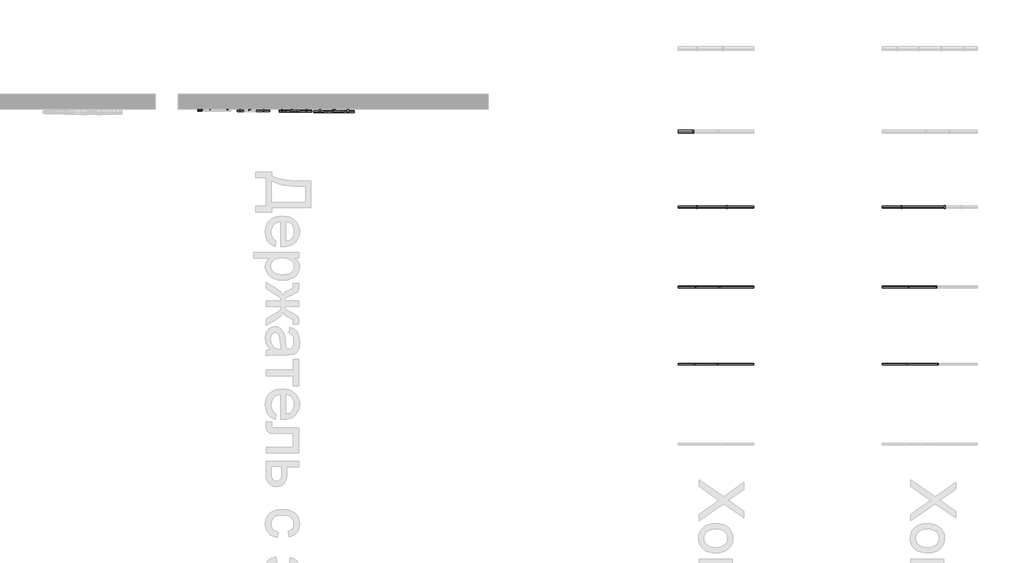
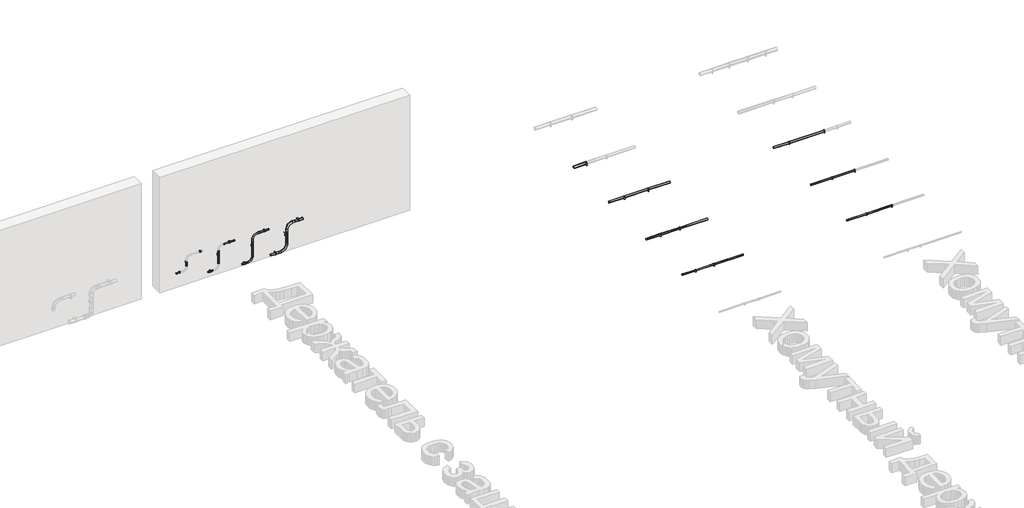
# One storey, part 7 of 33: 36 cable carrier segments, 29 cable carrier fittings.
"""IFC4 building model written with IfcOpenShell, lengths in millimetres."""

from ifc_helpers import new_model, si_unit, point, frame, frame_2d, origin, place, context, project, spatial, circle_curve, trimmed, segment, composite_curve, outline, extrude, transform, mapped, element, save
from components import cable_carrier_fitting_ea881ea5, cable_carrier_fitting_7ab8a709, cable_carrier_fitting_8feb8c2b, cable_carrier_fitting_05e0a0bb, cable_carrier_fitting_1851c7ee, cable_carrier_fitting_1b7fa4f3, cable_carrier_fitting_ed63e5e5, cable_carrier_fitting_f47d66c9, cable_carrier_fitting_9ad766fa, cable_carrier_fitting_1cabe774, cable_carrier_fitting_ebcfe72a, cable_carrier_fitting_60fb8931, cable_carrier_fitting_309cf5c9

model = new_model("IFC4")

# Units and contexts
model_context = context("Model", 3, world=origin())
ifc_project = project(units=[si_unit("LENGTHUNIT", "METRE", prefix="MILLI")], contexts=[model_context])

# Site, building, storey
site = spatial("IfcSite", under=ifc_project)
building = spatial("IfcBuilding", under=site)
storey = spatial("IfcBuildingStorey", under=building, Name="Уровень 1", Elevation=0.0)

# Cable carrier fittings
placement = place(None, origin())
cable_carrier_fitting_shape = cable_carrier_fitting_ea881ea5(model_context)
element("IfcCableCarrierFitting", 1, ObjectType="Держатель с защелкой и дюбелем CT : CTA10D-CT16-K41-100", at=placement, inside=storey, context=model_context, shape_type="MappedRepresentation", body=[
    mapped(cable_carrier_fitting_shape, transform((54483.6539102, 4388.4818447, 500.0), x_axis=(1.0, 0.0, 0.0), y_axis=(0.0, 0.0, 1.0000000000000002), z_axis=(0.0, -1.0000000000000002, 0.0))),
])
element("IfcCableCarrierFitting", 2, ObjectType="Держатель с защелкой и дюбелем CT : CTA10D-CT16-K41-100", at=placement, inside=storey, context=model_context, shape_type="MappedRepresentation", body=[
    mapped(cable_carrier_fitting_shape, transform((54257.669946, 4388.4818447, 384.5986089), x_axis=(0.0, 0.0, 1.0), y_axis=(-1.0000000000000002, 0.0, 0.0), z_axis=(0.0, -1.0000000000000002, 0.0))),
])
element("IfcCableCarrierFitting", 3, ObjectType="Держатель с защелкой и дюбелем CT : CTA10D-CT16-K41-100", at=placement, inside=storey, context=model_context, shape_type="MappedRepresentation", body=[
    mapped(cable_carrier_fitting_shape, transform((54147.6199827, 4388.4818447, 256.0339275), x_axis=(1.0, 0.0, 0.0), y_axis=(0.0, 0.0, 1.0000000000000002), z_axis=(0.0, -1.0000000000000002, 0.0))),
])
cable_carrier_fitting_2_shape = cable_carrier_fitting_7ab8a709(model_context)
element("IfcCableCarrierFitting", 4, ObjectType="Держатель с защелкой и дюбелем CT : CTA10D-CT20-K41-100", at=placement, inside=storey, context=model_context, shape_type="MappedRepresentation", body=[
    mapped(cable_carrier_fitting_2_shape, transform((54646.9295806, 4383.4818447, 101.7243296), x_axis=(1.0, 0.0, 0.0), y_axis=(0.0, 0.0, 1.0000000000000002), z_axis=(0.0, -1.0000000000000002, 0.0))),
])
element("IfcCableCarrierFitting", 5, ObjectType="Держатель с защелкой и дюбелем CT : CTA10D-CT20-K41-100", at=placement, inside=storey, context=model_context, shape_type="MappedRepresentation", body=[
    mapped(cable_carrier_fitting_2_shape, transform((54777.669946, 4383.4818447, 334.951753), x_axis=(0.0, 0.0, 1.0), y_axis=(-1.0000000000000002, 0.0, 0.0), z_axis=(0.0, -1.0000000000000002, 0.0))),
])
element("IfcCableCarrierFitting", 6, ObjectType="Держатель с защелкой и дюбелем CT : CTA10D-CT20-K41-100", at=placement, inside=storey, context=model_context, shape_type="MappedRepresentation", body=[
    mapped(cable_carrier_fitting_2_shape, transform((54958.6539102, 4383.4818447, 500.0), x_axis=(1.0, 0.0, 0.0), y_axis=(0.0, 0.0, 1.0000000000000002), z_axis=(0.0, -1.0000000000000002, 0.0))),
])
cable_carrier_fitting_3_shape = cable_carrier_fitting_8feb8c2b(model_context)
element("IfcCableCarrierFitting", 7, ObjectType="Держатель с защелкой и дюбелем CT : CTA10D-CT25-K41-100", at=placement, inside=storey, context=model_context, shape_type="MappedRepresentation", body=[
    mapped(cable_carrier_fitting_3_shape, transform((55528.6539102, 4378.4818447, 500.0), x_axis=(1.0, 0.0, 0.0), y_axis=(0.0, 0.0, 1.0000000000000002), z_axis=(0.0, -1.0000000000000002, 0.0))),
])
element("IfcCableCarrierFitting", 8, ObjectType="Держатель с защелкой и дюбелем CT : CTA10D-CT25-K41-100", at=placement, inside=storey, context=model_context, shape_type="MappedRepresentation", body=[
    mapped(cable_carrier_fitting_3_shape, transform((55334.2430534, 4378.4818447, 296.717557), x_axis=(0.0, 0.0, 1.0), y_axis=(-1.0000000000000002, 0.0, 0.0), z_axis=(0.0, -1.0000000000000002, 0.0))),
])
element("IfcCableCarrierFitting", 9, ObjectType="Держатель с защелкой и дюбелем CT : CTA10D-CT25-K41-100", at=placement, inside=storey, context=model_context, shape_type="MappedRepresentation", body=[
    mapped(cable_carrier_fitting_3_shape, transform((55202.7539102, 4378.4818447, 45.9), x_axis=(1.0, 0.0, 0.0), y_axis=(0.0, 0.0, 1.0000000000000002), z_axis=(0.0, -1.0000000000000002, 0.0))),
])
cable_carrier_fitting_4_shape = cable_carrier_fitting_05e0a0bb(model_context)
element("IfcCableCarrierFitting", 10, ObjectType="Держатель с защелкой и дюбелем CT : CTA10D-CT32-K41-050", at=placement, inside=storey, context=model_context, shape_type="MappedRepresentation", body=[
    mapped(cable_carrier_fitting_4_shape, transform((56078.6539102, 4371.4818447, 500.0), x_axis=(1.0, 0.0, 0.0), y_axis=(0.0, 0.0, 1.0000000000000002), z_axis=(0.0, -1.0000000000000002, 0.0))),
])
element("IfcCableCarrierFitting", 11, ObjectType="Держатель с защелкой и дюбелем CT : CTA10D-CT32-K41-050", at=placement, inside=storey, context=model_context, shape_type="MappedRepresentation", body=[
    mapped(cable_carrier_fitting_4_shape, transform((55890.8152632, 4371.4818447, 296.717557), x_axis=(0.0, 0.0, 1.0), y_axis=(-1.0000000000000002, 0.0, 0.0), z_axis=(0.0, -1.0000000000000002, 0.0))),
])
element("IfcCableCarrierFitting", 12, ObjectType="Держатель с защелкой и дюбелем CT : CTA10D-CT32-K41-050", at=placement, inside=storey, context=model_context, shape_type="MappedRepresentation", body=[
    mapped(cable_carrier_fitting_4_shape, transform((55707.7539102, 4371.4818447, 45.9), x_axis=(-1.0, 0.0, 0.0), y_axis=(0.0, 0.0, -1.0000000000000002), z_axis=(0.0, -1.0000000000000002, 0.0))),
])
cable_carrier_fitting_5_shape = cable_carrier_fitting_1851c7ee(model_context)
element("IfcCableCarrierFitting", 13, ObjectType="Хомутный держатель CFC : CTA10D-CFC20-K41-100", at=placement, inside=storey, context=model_context, shape_type="MappedRepresentation", body=[
    mapped(cable_carrier_fitting_5_shape, transform((60661.3320054, 1027.6255993, 45.929251), x_axis=(1.0, 0.0, 0.0), y_axis=(0.0, 1.0, 0.0), z_axis=(0.0, 0.0, 1.0))),
])
element("IfcCableCarrierFitting", 14, ObjectType="Хомутный держатель CFC : CTA10D-CFC20-K41-100", at=placement, inside=storey, context=model_context, shape_type="MappedRepresentation", body=[
    mapped(cable_carrier_fitting_5_shape, transform((60964.311129, 1027.6255993, 45.929251), x_axis=(1.0, 0.0, 0.0), y_axis=(0.0, 1.0, 0.0), z_axis=(0.0, 0.0, 1.0))),
])
cable_carrier_fitting_6_shape = cable_carrier_fitting_1b7fa4f3(model_context)
element("IfcCableCarrierFitting", 15, ObjectType="Хомутный держатель CFC : CTA10D-CFC25-K41-100", at=placement, inside=storey, context=model_context, shape_type="MappedRepresentation", body=[
    mapped(cable_carrier_fitting_6_shape, transform((60674.0769059, 2047.6255993, 45.929251), x_axis=(-1.0, 0.0, 0.0), y_axis=(0.0, -1.0, 0.0), z_axis=(0.0, 0.0, 1.0))),
])
element("IfcCableCarrierFitting", 16, ObjectType="Хомутный держатель CFC : CTA10D-CFC25-K41-100", at=placement, inside=storey, context=model_context, shape_type="MappedRepresentation", body=[
    mapped(cable_carrier_fitting_6_shape, transform((60987.0884508, 2047.6255993, 45.929251), x_axis=(-1.0, 0.0, 0.0), y_axis=(0.0, -1.0, 0.0), z_axis=(0.0, 0.0, 1.0))),
])
cable_carrier_fitting_7_shape = cable_carrier_fitting_ed63e5e5(model_context)
element("IfcCableCarrierFitting", 17, ObjectType="Хомутный держатель CFC : CTA10D-CFC32-K41-050", at=placement, inside=storey, context=model_context, shape_type="MappedRepresentation", body=[
    mapped(cable_carrier_fitting_7_shape, transform((60694.7180581, 3107.6255993, 45.929251), x_axis=(-1.0, 0.0, 0.0), y_axis=(0.0, -1.0, 0.0), z_axis=(0.0, 0.0, 1.0))),
])
element("IfcCableCarrierFitting", 18, ObjectType="Хомутный держатель CFC : CTA10D-CFC32-K41-050", at=placement, inside=storey, context=model_context, shape_type="MappedRepresentation", body=[
    mapped(cable_carrier_fitting_7_shape, transform((61085.9824892, 3107.6255993, 45.929251), x_axis=(-1.0, 0.0, 0.0), y_axis=(0.0, -1.0, 0.0), z_axis=(0.0, 0.0, 1.0))),
])
cable_carrier_fitting_8_shape = cable_carrier_fitting_f47d66c9(model_context)
element("IfcCableCarrierFitting", 19, ObjectType="Хомутный держатель CFC : CTA10D-CFC40-K41-050", at=placement, inside=storey, context=model_context, shape_type="MappedRepresentation", body=[
    mapped(cable_carrier_fitting_8_shape, transform((60645.3267891, 4107.6255993, 45.929251), x_axis=(-1.0, 0.0, 0.0), y_axis=(0.0, -1.0, 0.0), z_axis=(0.0, 0.0, 1.0))),
])
cable_carrier_fitting_9_shape = cable_carrier_fitting_9ad766fa(model_context)
element("IfcCableCarrierFitting", 20, ObjectType="Хомутный держатель со стяжкой CFF1 16-32 мм IEK : Хомутный держатель со стяжкой CFF1 16-32 мм IEK", at=placement, inside=storey, context=model_context, shape_type="MappedRepresentation", body=[
    mapped(cable_carrier_fitting_9_shape, transform((63399.5470042, 3107.6255993, 45.929251), x_axis=(-1.0, 0.0, 0.0), y_axis=(0.0, -1.0, 0.0), z_axis=(0.0, 0.0, 1.0))),
])
element("IfcCableCarrierFitting", 21, ObjectType="Хомутный держатель со стяжкой CFF1 16-32 мм IEK : Хомутный держатель со стяжкой CFF1 16-32 мм IEK", at=placement, inside=storey, context=model_context, shape_type="MappedRepresentation", body=[
    mapped(cable_carrier_fitting_9_shape, transform((63971.4548746, 3107.6255993, 45.929251), x_axis=(-1.0, 0.0, 0.0), y_axis=(0.0, -1.0, 0.0), z_axis=(0.0, 0.0, 1.0))),
])
cable_carrier_fitting_10_shape = cable_carrier_fitting_1cabe774(model_context)
element("IfcCableCarrierFitting", 22, ObjectType="Хомутный держатель со стяжкой CFF1 16-32 мм IEK : Хомутный держатель со стяжкой CFF1 16-32 мм IEK", at=placement, inside=storey, context=model_context, shape_type="MappedRepresentation", body=[
    mapped(cable_carrier_fitting_10_shape, transform((63473.705528, 1027.6255993, 45.929251), x_axis=(-1.0, 0.0, 0.0), y_axis=(0.0, -1.0, 0.0), z_axis=(0.0, 0.0, 1.0))),
])
element("IfcCableCarrierFitting", 23, ObjectType="Хомутный держатель со стяжкой CFF1 16-32 мм IEK : Хомутный держатель со стяжкой CFF1 16-32 мм IEK", at=placement, inside=storey, context=model_context, shape_type="MappedRepresentation", body=[
    mapped(cable_carrier_fitting_10_shape, transform((63882.7352035, 1027.6255993, 45.929251), x_axis=(-1.0, 0.0, 0.0), y_axis=(0.0, -1.0, 0.0), z_axis=(0.0, 0.0, 1.0))),
])
cable_carrier_fitting_11_shape = cable_carrier_fitting_ebcfe72a(model_context)
element("IfcCableCarrierFitting", 24, ObjectType="Хомутный держатель со стяжкой CFF1 16-32 мм IEK : Хомутный держатель со стяжкой CFF1 16-32 мм IEK", at=placement, inside=storey, context=model_context, shape_type="MappedRepresentation", body=[
    mapped(cable_carrier_fitting_11_shape, transform((63490.9951811, 2047.6255993, 45.929251), x_axis=(-1.0, 0.0, 0.0), y_axis=(0.0, -1.0, 0.0), z_axis=(0.0, 0.0, 1.0))),
])
element("IfcCableCarrierFitting", 25, ObjectType="Хомутный держатель со стяжкой CFF1 16-32 мм IEK : Хомутный держатель со стяжкой CFF1 16-32 мм IEK", at=placement, inside=storey, context=model_context, shape_type="MappedRepresentation", body=[
    mapped(cable_carrier_fitting_11_shape, transform((63861.3217189, 2047.6255993, 45.929251), x_axis=(-1.0, 0.0, 0.0), y_axis=(0.0, -1.0, 0.0), z_axis=(0.0, 0.0, 1.0))),
])
cable_carrier_fitting_12_shape = cable_carrier_fitting_60fb8931(model_context)
element("IfcCableCarrierFitting", 26, ObjectType="Отвод Трубы гладкие жесткие ПВХ : Отвод Трубы гладкие жесткие ПВХ", at=placement, inside=storey, context=model_context, shape_type="MappedRepresentation", body=[
    mapped(cable_carrier_fitting_12_shape, transform((55334.2430534, 4378.4818447, 45.9), x_axis=(1.0, 0.0, 0.0), y_axis=(0.0, 0.0, 1.0), z_axis=(0.0, -1.0, 0.0))),
])
element("IfcCableCarrierFitting", 27, ObjectType="Отвод Трубы гладкие жесткие ПВХ : Отвод Трубы гладкие жесткие ПВХ", at=placement, inside=storey, context=model_context, shape_type="MappedRepresentation", body=[
    mapped(cable_carrier_fitting_12_shape, transform((55334.2430534, 4378.4818447, 500.0), x_axis=(0.0, 0.0, 1.0), y_axis=(1.0, 0.0, 0.0), z_axis=(0.0, 1.0, 0.0))),
])
cable_carrier_fitting_13_shape = cable_carrier_fitting_309cf5c9(model_context)
element("IfcCableCarrierFitting", 28, ObjectType="Отвод Трубы гладкие жесткие ПВХ : Отвод Трубы гладкие жесткие ПВХ", at=placement, inside=storey, context=model_context, shape_type="MappedRepresentation", body=[
    mapped(cable_carrier_fitting_13_shape, transform((55890.8152632, 4371.4818447, 45.9), x_axis=(1.0, 0.0, 0.0), y_axis=(0.0, 0.0, 1.0), z_axis=(0.0, -1.0, 0.0))),
])
element("IfcCableCarrierFitting", 29, ObjectType="Отвод Трубы гладкие жесткие ПВХ : Отвод Трубы гладкие жесткие ПВХ", at=placement, inside=storey, context=model_context, shape_type="MappedRepresentation", body=[
    mapped(cable_carrier_fitting_13_shape, transform((55890.8152632, 4371.4818447, 500.0), x_axis=(0.0, 0.0, 1.0), y_axis=(1.0, 0.0, 0.0), z_axis=(0.0, 1.0, 0.0))),
])

# Cable carrier segments
element("IfcCableCarrierSegment", 30, ObjectType="Трубы гладкие жесткие ПВХ", at=placement, inside=storey, context=model_context, shape_type="SweptSolid", body=[
    extrude(outline(composite_curve([segment(trimmed(circle_curve(frame_2d((4383.4818447, 101.7243296)), 10.0), [point((4373.4818447, 101.7243296))], [point((4383.4818447, 111.7243296))], False, "CARTESIAN"), True, "CONTINUOUS"), segment(trimmed(circle_curve(frame_2d((4383.4818447, 101.7243296)), 10.0), [point((4383.4818447, 111.7243296))], [point((4393.4818447, 101.7243296))], False, "CARTESIAN"), True, "CONTINUOUS"), segment(trimmed(circle_curve(frame_2d((4383.4818447, 101.7243296)), 10.0), [point((4393.4818447, 101.7243296))], [point((4383.4818447, 91.7243296))], False, "CARTESIAN"), True, "CONTINUOUS"), segment(trimmed(circle_curve(frame_2d((4383.4818447, 101.7243296)), 10.0), [point((4383.4818447, 91.7243296))], [point((4373.4818447, 101.7243296))], False, "CARTESIAN"), True, "CONTINUOUS")], self_intersect=False)), frame((54646.9295806, 0.0, 0.0), z_axis=(1.0, 0.0, 0.0), x_axis=(0.0, 1.0, 0.0)), (0.0, 0.0, 1.0), 47.2505653),
])
element("IfcCableCarrierSegment", 31, ObjectType="Трубы гладкие жесткие ПВХ", at=placement, inside=storey, context=model_context, shape_type="SweptSolid", body=[
    extrude(outline(composite_curve([segment(trimmed(circle_curve(frame_2d((54777.669946, 4383.4818447)), 10.0), [point((54767.669946, 4383.4818447))], [point((54777.669946, 4393.4818447))], False, "CARTESIAN"), True, "CONTINUOUS"), segment(trimmed(circle_curve(frame_2d((54777.669946, 4383.4818447)), 10.0), [point((54777.669946, 4393.4818447))], [point((54787.669946, 4383.4818447))], False, "CARTESIAN"), True, "CONTINUOUS"), segment(trimmed(circle_curve(frame_2d((54777.669946, 4383.4818447)), 10.0), [point((54787.669946, 4383.4818447))], [point((54777.669946, 4373.4818447))], False, "CARTESIAN"), True, "CONTINUOUS"), segment(trimmed(circle_curve(frame_2d((54777.669946, 4383.4818447)), 10.0), [point((54777.669946, 4373.4818447))], [point((54767.669946, 4383.4818447))], False, "CARTESIAN"), True, "CONTINUOUS")], self_intersect=False)), frame((0.0, 0.0, 334.951753), z_axis=(0.0, 0.0, 1.0), x_axis=(1.0, 0.0, 0.0)), (0.0, 0.0, 1.0), 81.558447),
])
element("IfcCableCarrierSegment", 32, ObjectType="Трубы гладкие жесткие ПВХ", at=placement, inside=storey, context=model_context, shape_type="SweptSolid", body=[
    extrude(outline(composite_curve([segment(trimmed(circle_curve(frame_2d((4383.4818447, 500.0)), 10.0), [point((4373.4818447, 500.0))], [point((4383.4818447, 510.0))], False, "CARTESIAN"), True, "CONTINUOUS"), segment(trimmed(circle_curve(frame_2d((4383.4818447, 500.0)), 10.0), [point((4383.4818447, 510.0))], [point((4393.4818447, 500.0))], False, "CARTESIAN"), True, "CONTINUOUS"), segment(trimmed(circle_curve(frame_2d((4383.4818447, 500.0)), 10.0), [point((4393.4818447, 500.0))], [point((4383.4818447, 490.0))], False, "CARTESIAN"), True, "CONTINUOUS"), segment(trimmed(circle_curve(frame_2d((4383.4818447, 500.0)), 10.0), [point((4383.4818447, 490.0))], [point((4373.4818447, 500.0))], False, "CARTESIAN"), True, "CONTINUOUS")], self_intersect=False)), frame((54958.6539102, 0.0, 0.0), z_axis=(1.0, 0.0, 0.0), x_axis=(0.0, 1.0, 0.0)), (0.0, 0.0, 1.0), 84.0160358),
])
element("IfcCableCarrierSegment", 33, ObjectType="Трубы гладкие жесткие ПВХ", at=placement, inside=storey, context=model_context, shape_type="SweptSolid", body=[
    extrude(outline(composite_curve([segment(trimmed(circle_curve(frame_2d((4378.4818447, 45.9)), 12.5), [point((4365.9818447, 45.9))], [point((4378.4818447, 58.4))], False, "CARTESIAN"), True, "CONTINUOUS"), segment(trimmed(circle_curve(frame_2d((4378.4818447, 45.9)), 12.5), [point((4378.4818447, 58.4))], [point((4390.9818447, 45.9))], False, "CARTESIAN"), True, "CONTINUOUS"), segment(trimmed(circle_curve(frame_2d((4378.4818447, 45.9)), 12.5), [point((4390.9818447, 45.9))], [point((4378.4818447, 33.4))], False, "CARTESIAN"), True, "CONTINUOUS"), segment(trimmed(circle_curve(frame_2d((4378.4818447, 45.9)), 12.5), [point((4378.4818447, 33.4))], [point((4365.9818447, 45.9))], False, "CARTESIAN"), True, "CONTINUOUS")], self_intersect=False)), frame((55202.7539102, 0.0, 0.0), z_axis=(1.0, 0.0, 0.0), x_axis=(0.0, 1.0, 0.0)), (0.0, 0.0, 1.0), 28.5937432),
])
element("IfcCableCarrierSegment", 34, ObjectType="Трубы гладкие жесткие ПВХ", at=placement, inside=storey, context=model_context, shape_type="SweptSolid", body=[
    extrude(outline(composite_curve([segment(trimmed(circle_curve(frame_2d((55334.2430534, 4378.4818447)), 12.5), [point((55321.7430534, 4378.4818447))], [point((55334.2430534, 4390.9818447))], False, "CARTESIAN"), True, "CONTINUOUS"), segment(trimmed(circle_curve(frame_2d((55334.2430534, 4378.4818447)), 12.5), [point((55334.2430534, 4390.9818447))], [point((55346.7430534, 4378.4818447))], False, "CARTESIAN"), True, "CONTINUOUS"), segment(trimmed(circle_curve(frame_2d((55334.2430534, 4378.4818447)), 12.5), [point((55346.7430534, 4378.4818447))], [point((55334.2430534, 4365.9818447))], False, "CARTESIAN"), True, "CONTINUOUS"), segment(trimmed(circle_curve(frame_2d((55334.2430534, 4378.4818447)), 12.5), [point((55334.2430534, 4365.9818447))], [point((55321.7430534, 4378.4818447))], False, "CARTESIAN"), True, "CONTINUOUS")], self_intersect=False)), frame((0.0, 0.0, 296.717557), z_axis=(0.0, 0.0, 1.0), x_axis=(1.0, 0.0, 0.0)), (0.0, 0.0, 1.0), 100.387043),
])
element("IfcCableCarrierSegment", 35, ObjectType="Трубы гладкие жесткие ПВХ", at=placement, inside=storey, context=model_context, shape_type="SweptSolid", body=[
    extrude(outline(composite_curve([segment(trimmed(circle_curve(frame_2d((4378.4818447, 500.0)), 12.5), [point((4365.9818447, 500.0))], [point((4378.4818447, 512.5))], False, "CARTESIAN"), True, "CONTINUOUS"), segment(trimmed(circle_curve(frame_2d((4378.4818447, 500.0)), 12.5), [point((4378.4818447, 512.5))], [point((4390.9818447, 500.0))], False, "CARTESIAN"), True, "CONTINUOUS"), segment(trimmed(circle_curve(frame_2d((4378.4818447, 500.0)), 12.5), [point((4390.9818447, 500.0))], [point((4378.4818447, 487.5))], False, "CARTESIAN"), True, "CONTINUOUS"), segment(trimmed(circle_curve(frame_2d((4378.4818447, 500.0)), 12.5), [point((4378.4818447, 487.5))], [point((4365.9818447, 500.0))], False, "CARTESIAN"), True, "CONTINUOUS")], self_intersect=False)), frame((55528.6539102, 0.0, 0.0), z_axis=(1.0, 0.0, 0.0), x_axis=(0.0, 1.0, 0.0)), (0.0, 0.0, 1.0), 70.5891432),
])
element("IfcCableCarrierSegment", 36, ObjectType="Трубы гладкие жесткие ПВХ", at=placement, inside=storey, context=model_context, shape_type="SweptSolid", body=[
    extrude(outline(composite_curve([segment(trimmed(circle_curve(frame_2d((55890.8152632, 4371.4818447)), 16.0), [point((55874.8152632, 4371.4818447))], [point((55890.8152632, 4387.4818447))], False, "CARTESIAN"), True, "CONTINUOUS"), segment(trimmed(circle_curve(frame_2d((55890.8152632, 4371.4818447)), 16.0), [point((55890.8152632, 4387.4818447))], [point((55906.8152632, 4371.4818447))], False, "CARTESIAN"), True, "CONTINUOUS"), segment(trimmed(circle_curve(frame_2d((55890.8152632, 4371.4818447)), 16.0), [point((55906.8152632, 4371.4818447))], [point((55890.8152632, 4355.4818447))], False, "CARTESIAN"), True, "CONTINUOUS"), segment(trimmed(circle_curve(frame_2d((55890.8152632, 4371.4818447)), 16.0), [point((55890.8152632, 4355.4818447))], [point((55874.8152632, 4371.4818447))], False, "CARTESIAN"), True, "CONTINUOUS")], self_intersect=False)), frame((0.0, 0.0, 296.717557), z_axis=(0.0, 0.0, 1.0), x_axis=(1.0, 0.0, 0.0)), (0.0, 0.0, 1.0), 75.012443),
])
element("IfcCableCarrierSegment", 37, ObjectType="Трубы гладкие жесткие ПВХ", at=placement, inside=storey, context=model_context, shape_type="SweptSolid", body=[
    extrude(outline(composite_curve([segment(trimmed(circle_curve(frame_2d((4371.4818447, 500.0)), 16.0), [point((4355.4818447, 500.0))], [point((4371.4818447, 516.0))], False, "CARTESIAN"), True, "CONTINUOUS"), segment(trimmed(circle_curve(frame_2d((4371.4818447, 500.0)), 16.0), [point((4371.4818447, 516.0))], [point((4387.4818447, 500.0))], False, "CARTESIAN"), True, "CONTINUOUS"), segment(trimmed(circle_curve(frame_2d((4371.4818447, 500.0)), 16.0), [point((4387.4818447, 500.0))], [point((4371.4818447, 484.0))], False, "CARTESIAN"), True, "CONTINUOUS"), segment(trimmed(circle_curve(frame_2d((4371.4818447, 500.0)), 16.0), [point((4371.4818447, 484.0))], [point((4355.4818447, 500.0))], False, "CARTESIAN"), True, "CONTINUOUS")], self_intersect=False)), frame((56078.6539102, 0.0, 0.0), z_axis=(1.0, 0.0, 0.0), x_axis=(0.0, 1.0, 0.0)), (0.0, 0.0, 1.0), 77.161353),
])
element("IfcCableCarrierSegment", 38, ObjectType="Трубы гладкие жесткие ПВХ", at=placement, inside=storey, context=model_context, shape_type="SweptSolid", body=[
    extrude(outline(composite_curve([segment(trimmed(circle_curve(frame_2d((4371.4818447, 45.9)), 16.0), [point((4387.4818447, 45.9))], [point((4371.4818447, 29.9))], False, "CARTESIAN"), True, "CONTINUOUS"), segment(trimmed(circle_curve(frame_2d((4371.4818447, 45.9)), 16.0), [point((4371.4818447, 29.9))], [point((4355.4818447, 45.9))], False, "CARTESIAN"), True, "CONTINUOUS"), segment(trimmed(circle_curve(frame_2d((4371.4818447, 45.9)), 16.0), [point((4355.4818447, 45.9))], [point((4371.4818447, 61.9))], False, "CARTESIAN"), True, "CONTINUOUS"), segment(trimmed(circle_curve(frame_2d((4371.4818447, 45.9)), 16.0), [point((4371.4818447, 61.9))], [point((4387.4818447, 45.9))], False, "CARTESIAN"), True, "CONTINUOUS")], self_intersect=False)), frame((55625.8152632, 0.0, 0.0), z_axis=(1.0, 0.0, 0.0), x_axis=(0.0, 1.0, 0.0)), (0.0, 0.0, 1.0), 81.938647),
])
element("IfcCableCarrierSegment", 39, ObjectType="Трубы гладкие жесткие ПВХ", at=placement, inside=storey, context=model_context, shape_type="SweptSolid", body=[
    extrude(outline(composite_curve([segment(trimmed(circle_curve(frame_2d((54257.669946, 4388.4818447)), 8.0), [point((54249.669946, 4388.4818447))], [point((54257.669946, 4396.4818447))], False, "CARTESIAN"), True, "CONTINUOUS"), segment(trimmed(circle_curve(frame_2d((54257.669946, 4388.4818447)), 8.0), [point((54257.669946, 4396.4818447))], [point((54265.669946, 4388.4818447))], False, "CARTESIAN"), True, "CONTINUOUS"), segment(trimmed(circle_curve(frame_2d((54257.669946, 4388.4818447)), 8.0), [point((54265.669946, 4388.4818447))], [point((54257.669946, 4380.4818447))], False, "CARTESIAN"), True, "CONTINUOUS"), segment(trimmed(circle_curve(frame_2d((54257.669946, 4388.4818447)), 8.0), [point((54257.669946, 4380.4818447))], [point((54249.669946, 4388.4818447))], False, "CARTESIAN"), True, "CONTINUOUS")], self_intersect=False)), frame((0.0, 0.0, 323.1153275), z_axis=(0.0, 0.0, 1.0), x_axis=(1.0, 0.0, 0.0)), (0.0, 0.0, 1.0), 61.4832814),
])
element("IfcCableCarrierSegment", 40, ObjectType="Трубы гладкие жесткие ПВХ", at=placement, inside=storey, context=model_context, shape_type="SweptSolid", body=[
    extrude(outline(composite_curve([segment(trimmed(circle_curve(frame_2d((4388.4818447, 256.0339275)), 8.0), [point((4380.4818447, 256.0339275))], [point((4388.4818447, 264.0339275))], False, "CARTESIAN"), True, "CONTINUOUS"), segment(trimmed(circle_curve(frame_2d((4388.4818447, 256.0339275)), 8.0), [point((4388.4818447, 264.0339275))], [point((4396.4818447, 256.0339275))], False, "CARTESIAN"), True, "CONTINUOUS"), segment(trimmed(circle_curve(frame_2d((4388.4818447, 256.0339275)), 8.0), [point((4396.4818447, 256.0339275))], [point((4388.4818447, 248.0339275))], False, "CARTESIAN"), True, "CONTINUOUS"), segment(trimmed(circle_curve(frame_2d((4388.4818447, 256.0339275)), 8.0), [point((4388.4818447, 248.0339275))], [point((4380.4818447, 256.0339275))], False, "CARTESIAN"), True, "CONTINUOUS")], self_intersect=False)), frame((54087.669946, 0.0, 0.0), z_axis=(1.0, 0.0, 0.0), x_axis=(0.0, 1.0, 0.0)), (0.0, 0.0, 1.0), 59.9500367),
])
element("IfcCableCarrierSegment", 41, ObjectType="Трубы гладкие жесткие ПВХ", at=placement, inside=storey, context=model_context, shape_type="SweptSolid", body=[
    extrude(outline(composite_curve([segment(trimmed(circle_curve(frame_2d((4383.4818447, 101.7243296)), 10.0), [point((4373.4818447, 101.7243296))], [point((4383.4818447, 111.7243296))], False, "CARTESIAN"), True, "CONTINUOUS"), segment(trimmed(circle_curve(frame_2d((4383.4818447, 101.7243296)), 10.0), [point((4383.4818447, 111.7243296))], [point((4393.4818447, 101.7243296))], False, "CARTESIAN"), True, "CONTINUOUS"), segment(trimmed(circle_curve(frame_2d((4383.4818447, 101.7243296)), 10.0), [point((4393.4818447, 101.7243296))], [point((4383.4818447, 91.7243296))], False, "CARTESIAN"), True, "CONTINUOUS"), segment(trimmed(circle_curve(frame_2d((4383.4818447, 101.7243296)), 10.0), [point((4383.4818447, 91.7243296))], [point((4373.4818447, 101.7243296))], False, "CARTESIAN"), True, "CONTINUOUS")], self_intersect=False)), frame((54607.669946, 0.0, 0.0), z_axis=(1.0, 0.0, 0.0), x_axis=(0.0, 1.0, 0.0)), (0.0, 0.0, 1.0), 39.2596347),
])
element("IfcCableCarrierSegment", 42, ObjectType="Трубы гладкие жесткие ПВХ", at=placement, inside=storey, context=model_context, shape_type="SweptSolid", body=[
    extrude(outline(composite_curve([segment(trimmed(circle_curve(frame_2d((54777.669946, 4383.4818447)), 10.0), [point((54767.669946, 4383.4818447))], [point((54777.669946, 4393.4818447))], False, "CARTESIAN"), True, "CONTINUOUS"), segment(trimmed(circle_curve(frame_2d((54777.669946, 4383.4818447)), 10.0), [point((54777.669946, 4393.4818447))], [point((54787.669946, 4383.4818447))], False, "CARTESIAN"), True, "CONTINUOUS"), segment(trimmed(circle_curve(frame_2d((54777.669946, 4383.4818447)), 10.0), [point((54787.669946, 4383.4818447))], [point((54777.669946, 4373.4818447))], False, "CARTESIAN"), True, "CONTINUOUS"), segment(trimmed(circle_curve(frame_2d((54777.669946, 4383.4818447)), 10.0), [point((54777.669946, 4373.4818447))], [point((54767.669946, 4383.4818447))], False, "CARTESIAN"), True, "CONTINUOUS")], self_intersect=False)), frame((0.0, 0.0, 185.2141296), z_axis=(0.0, 0.0, 1.0), x_axis=(1.0, 0.0, 0.0)), (0.0, 0.0, 1.0), 149.7376234),
])
element("IfcCableCarrierSegment", 43, ObjectType="Трубы гладкие жесткие ПВХ", at=placement, inside=storey, context=model_context, shape_type="SweptSolid", body=[
    extrude(outline(composite_curve([segment(trimmed(circle_curve(frame_2d((4383.4818447, 500.0)), 10.0), [point((4373.4818447, 500.0))], [point((4383.4818447, 510.0))], False, "CARTESIAN"), True, "CONTINUOUS"), segment(trimmed(circle_curve(frame_2d((4383.4818447, 500.0)), 10.0), [point((4383.4818447, 510.0))], [point((4393.4818447, 500.0))], False, "CARTESIAN"), True, "CONTINUOUS"), segment(trimmed(circle_curve(frame_2d((4383.4818447, 500.0)), 10.0), [point((4393.4818447, 500.0))], [point((4383.4818447, 490.0))], False, "CARTESIAN"), True, "CONTINUOUS"), segment(trimmed(circle_curve(frame_2d((4383.4818447, 500.0)), 10.0), [point((4383.4818447, 490.0))], [point((4373.4818447, 500.0))], False, "CARTESIAN"), True, "CONTINUOUS")], self_intersect=False)), frame((54861.159746, 0.0, 0.0), z_axis=(1.0, 0.0, 0.0), x_axis=(0.0, 1.0, 0.0)), (0.0, 0.0, 1.0), 97.4941642),
])
element("IfcCableCarrierSegment", 44, ObjectType="Трубы гладкие жесткие ПВХ", at=placement, inside=storey, context=model_context, shape_type="SweptSolid", body=[
    extrude(outline(composite_curve([segment(trimmed(circle_curve(frame_2d((4378.4818447, 500.0)), 12.5), [point((4365.9818447, 500.0))], [point((4378.4818447, 512.5))], False, "CARTESIAN"), True, "CONTINUOUS"), segment(trimmed(circle_curve(frame_2d((4378.4818447, 500.0)), 12.5), [point((4378.4818447, 512.5))], [point((4390.9818447, 500.0))], False, "CARTESIAN"), True, "CONTINUOUS"), segment(trimmed(circle_curve(frame_2d((4378.4818447, 500.0)), 12.5), [point((4390.9818447, 500.0))], [point((4378.4818447, 487.5))], False, "CARTESIAN"), True, "CONTINUOUS"), segment(trimmed(circle_curve(frame_2d((4378.4818447, 500.0)), 12.5), [point((4378.4818447, 487.5))], [point((4365.9818447, 500.0))], False, "CARTESIAN"), True, "CONTINUOUS")], self_intersect=False)), frame((55437.1384534, 0.0, 0.0), z_axis=(1.0, 0.0, 0.0), x_axis=(0.0, 1.0, 0.0)), (0.0, 0.0, 1.0), 91.5154568),
])
element("IfcCableCarrierSegment", 45, ObjectType="Трубы гладкие жесткие ПВХ", at=placement, inside=storey, context=model_context, shape_type="SweptSolid", body=[
    extrude(outline(composite_curve([segment(trimmed(circle_curve(frame_2d((55334.2430534, 4378.4818447)), 12.5), [point((55321.7430534, 4378.4818447))], [point((55334.2430534, 4390.9818447))], False, "CARTESIAN"), True, "CONTINUOUS"), segment(trimmed(circle_curve(frame_2d((55334.2430534, 4378.4818447)), 12.5), [point((55334.2430534, 4390.9818447))], [point((55346.7430534, 4378.4818447))], False, "CARTESIAN"), True, "CONTINUOUS"), segment(trimmed(circle_curve(frame_2d((55334.2430534, 4378.4818447)), 12.5), [point((55346.7430534, 4378.4818447))], [point((55334.2430534, 4365.9818447))], False, "CARTESIAN"), True, "CONTINUOUS"), segment(trimmed(circle_curve(frame_2d((55334.2430534, 4378.4818447)), 12.5), [point((55334.2430534, 4365.9818447))], [point((55321.7430534, 4378.4818447))], False, "CARTESIAN"), True, "CONTINUOUS")], self_intersect=False)), frame((0.0, 0.0, 148.7954), z_axis=(0.0, 0.0, 1.0), x_axis=(1.0, 0.0, 0.0)), (0.0, 0.0, 1.0), 147.922157),
])
element("IfcCableCarrierSegment", 46, ObjectType="Трубы гладкие жесткие ПВХ", at=placement, inside=storey, context=model_context, shape_type="SweptSolid", body=[
    extrude(outline(composite_curve([segment(trimmed(circle_curve(frame_2d((4378.4818447, 45.9)), 12.5), [point((4365.9818447, 45.9))], [point((4378.4818447, 58.4))], False, "CARTESIAN"), True, "CONTINUOUS"), segment(trimmed(circle_curve(frame_2d((4378.4818447, 45.9)), 12.5), [point((4378.4818447, 58.4))], [point((4390.9818447, 45.9))], False, "CARTESIAN"), True, "CONTINUOUS"), segment(trimmed(circle_curve(frame_2d((4378.4818447, 45.9)), 12.5), [point((4390.9818447, 45.9))], [point((4378.4818447, 33.4))], False, "CARTESIAN"), True, "CONTINUOUS"), segment(trimmed(circle_curve(frame_2d((4378.4818447, 45.9)), 12.5), [point((4378.4818447, 33.4))], [point((4365.9818447, 45.9))], False, "CARTESIAN"), True, "CONTINUOUS")], self_intersect=False)), frame((55164.2430534, 0.0, 0.0), z_axis=(1.0, 0.0, 0.0), x_axis=(0.0, 1.0, 0.0)), (0.0, 0.0, 1.0), 38.5108568),
])
element("IfcCableCarrierSegment", 47, ObjectType="Трубы гладкие жесткие ПВХ", at=placement, inside=storey, context=model_context, shape_type="SweptSolid", body=[
    extrude(outline(composite_curve([segment(trimmed(circle_curve(frame_2d((4371.4818447, 500.0)), 16.0), [point((4355.4818447, 500.0))], [point((4371.4818447, 516.0))], False, "CARTESIAN"), True, "CONTINUOUS"), segment(trimmed(circle_curve(frame_2d((4371.4818447, 500.0)), 16.0), [point((4371.4818447, 516.0))], [point((4387.4818447, 500.0))], False, "CARTESIAN"), True, "CONTINUOUS"), segment(trimmed(circle_curve(frame_2d((4371.4818447, 500.0)), 16.0), [point((4387.4818447, 500.0))], [point((4371.4818447, 484.0))], False, "CARTESIAN"), True, "CONTINUOUS"), segment(trimmed(circle_curve(frame_2d((4371.4818447, 500.0)), 16.0), [point((4371.4818447, 484.0))], [point((4355.4818447, 500.0))], False, "CARTESIAN"), True, "CONTINUOUS")], self_intersect=False)), frame((56019.0852632, 0.0, 0.0), z_axis=(1.0, 0.0, 0.0), x_axis=(0.0, 1.0, 0.0)), (0.0, 0.0, 1.0), 59.568647),
])
element("IfcCableCarrierSegment", 48, ObjectType="Трубы гладкие жесткие ПВХ", at=placement, inside=storey, context=model_context, shape_type="SweptSolid", body=[
    extrude(outline(composite_curve([segment(trimmed(circle_curve(frame_2d((55890.8152632, 4371.4818447)), 16.0), [point((55874.8152632, 4371.4818447))], [point((55890.8152632, 4387.4818447))], False, "CARTESIAN"), True, "CONTINUOUS"), segment(trimmed(circle_curve(frame_2d((55890.8152632, 4371.4818447)), 16.0), [point((55890.8152632, 4387.4818447))], [point((55906.8152632, 4371.4818447))], False, "CARTESIAN"), True, "CONTINUOUS"), segment(trimmed(circle_curve(frame_2d((55890.8152632, 4371.4818447)), 16.0), [point((55906.8152632, 4371.4818447))], [point((55890.8152632, 4355.4818447))], False, "CARTESIAN"), True, "CONTINUOUS"), segment(trimmed(circle_curve(frame_2d((55890.8152632, 4371.4818447)), 16.0), [point((55890.8152632, 4355.4818447))], [point((55874.8152632, 4371.4818447))], False, "CARTESIAN"), True, "CONTINUOUS")], self_intersect=False)), frame((0.0, 0.0, 174.17), z_axis=(0.0, 0.0, 1.0), x_axis=(1.0, 0.0, 0.0)), (0.0, 0.0, 1.0), 122.547557),
])
element("IfcCableCarrierSegment", 49, ObjectType="Трубы гладкие жесткие ПВХ", at=placement, inside=storey, context=model_context, shape_type="SweptSolid", body=[
    extrude(outline(composite_curve([segment(trimmed(circle_curve(frame_2d((4371.4818447, 45.9)), 16.0), [point((4387.4818447, 45.9))], [point((4371.4818447, 29.9))], False, "CARTESIAN"), True, "CONTINUOUS"), segment(trimmed(circle_curve(frame_2d((4371.4818447, 45.9)), 16.0), [point((4371.4818447, 29.9))], [point((4355.4818447, 45.9))], False, "CARTESIAN"), True, "CONTINUOUS"), segment(trimmed(circle_curve(frame_2d((4371.4818447, 45.9)), 16.0), [point((4355.4818447, 45.9))], [point((4371.4818447, 61.9))], False, "CARTESIAN"), True, "CONTINUOUS"), segment(trimmed(circle_curve(frame_2d((4371.4818447, 45.9)), 16.0), [point((4371.4818447, 61.9))], [point((4387.4818447, 45.9))], False, "CARTESIAN"), True, "CONTINUOUS")], self_intersect=False)), frame((55707.7539102, 0.0, 0.0), z_axis=(1.0, 0.0, 0.0), x_axis=(0.0, 1.0, 0.0)), (0.0, 0.0, 1.0), 54.791353),
])
element("IfcCableCarrierSegment", 50, ObjectType="Трубы гладкие жесткие ПВХ", at=placement, inside=storey, context=model_context, shape_type="SweptSolid", body=[
    extrude(outline(composite_curve([segment(trimmed(circle_curve(frame_2d((1027.6255993, 45.929251)), 10.0), [point((1017.6255993, 45.929251))], [point((1027.6255993, 55.929251))], False, "CARTESIAN"), True, "CONTINUOUS"), segment(trimmed(circle_curve(frame_2d((1027.6255993, 45.929251)), 10.0), [point((1027.6255993, 55.929251))], [point((1037.6255993, 45.929251))], False, "CARTESIAN"), True, "CONTINUOUS"), segment(trimmed(circle_curve(frame_2d((1027.6255993, 45.929251)), 10.0), [point((1037.6255993, 45.929251))], [point((1027.6255993, 35.929251))], False, "CARTESIAN"), True, "CONTINUOUS"), segment(trimmed(circle_curve(frame_2d((1027.6255993, 45.929251)), 10.0), [point((1027.6255993, 35.929251))], [point((1017.6255993, 45.929251))], False, "CARTESIAN"), True, "CONTINUOUS")], self_intersect=False)), frame((60964.311129, 0.0, 0.0), z_axis=(1.0, 0.0, 0.0), x_axis=(0.0, 1.0, 0.0)), (0.0, 0.0, 1.0), 479.8290873),
])
element("IfcCableCarrierSegment", 51, ObjectType="Трубы гладкие жесткие ПВХ", at=placement, inside=storey, context=model_context, shape_type="SweptSolid", body=[
    extrude(outline(composite_curve([segment(trimmed(circle_curve(frame_2d((2047.6255993, 45.929251)), 12.5), [point((2060.1255993, 45.929251))], [point((2047.6255993, 33.429251))], False, "CARTESIAN"), True, "CONTINUOUS"), segment(trimmed(circle_curve(frame_2d((2047.6255993, 45.929251)), 12.5), [point((2047.6255993, 33.429251))], [point((2035.1255993, 45.929251))], False, "CARTESIAN"), True, "CONTINUOUS"), segment(trimmed(circle_curve(frame_2d((2047.6255993, 45.929251)), 12.5), [point((2035.1255993, 45.929251))], [point((2047.6255993, 58.429251))], False, "CARTESIAN"), True, "CONTINUOUS"), segment(trimmed(circle_curve(frame_2d((2047.6255993, 45.929251)), 12.5), [point((2047.6255993, 58.429251))], [point((2060.1255993, 45.929251))], False, "CARTESIAN"), True, "CONTINUOUS")], self_intersect=False)), frame((60444.1402163, 0.0, 0.0), z_axis=(1.0, 0.0, 0.0), x_axis=(0.0, 1.0, 0.0)), (0.0, 0.0, 1.0), 229.9366896),
])
element("IfcCableCarrierSegment", 52, ObjectType="Трубы гладкие жесткие ПВХ", at=placement, inside=storey, context=model_context, shape_type="SweptSolid", body=[
    extrude(outline(composite_curve([segment(trimmed(circle_curve(frame_2d((3107.6255993, 45.929251)), 16.0), [point((3123.6255993, 45.929251))], [point((3107.6255993, 29.929251))], False, "CARTESIAN"), True, "CONTINUOUS"), segment(trimmed(circle_curve(frame_2d((3107.6255993, 45.929251)), 16.0), [point((3107.6255993, 29.929251))], [point((3091.6255993, 45.929251))], False, "CARTESIAN"), True, "CONTINUOUS"), segment(trimmed(circle_curve(frame_2d((3107.6255993, 45.929251)), 16.0), [point((3091.6255993, 45.929251))], [point((3107.6255993, 61.929251))], False, "CARTESIAN"), True, "CONTINUOUS"), segment(trimmed(circle_curve(frame_2d((3107.6255993, 45.929251)), 16.0), [point((3107.6255993, 61.929251))], [point((3123.6255993, 45.929251))], False, "CARTESIAN"), True, "CONTINUOUS")], self_intersect=False)), frame((60444.1402163, 0.0, 0.0), z_axis=(1.0, 0.0, 0.0), x_axis=(0.0, 1.0, 0.0)), (0.0, 0.0, 1.0), 250.5778418),
])
element("IfcCableCarrierSegment", 53, ObjectType="Трубы гладкие жесткие ПВХ", at=placement, inside=storey, context=model_context, shape_type="SweptSolid", body=[
    extrude(outline(composite_curve([segment(trimmed(circle_curve(frame_2d((4107.6255993, 45.929251)), 20.0), [point((4127.6255993, 45.929251))], [point((4107.6255993, 25.929251))], False, "CARTESIAN"), True, "CONTINUOUS"), segment(trimmed(circle_curve(frame_2d((4107.6255993, 45.929251)), 20.0), [point((4107.6255993, 25.929251))], [point((4087.6255993, 45.929251))], False, "CARTESIAN"), True, "CONTINUOUS"), segment(trimmed(circle_curve(frame_2d((4107.6255993, 45.929251)), 20.0), [point((4087.6255993, 45.929251))], [point((4107.6255993, 65.929251))], False, "CARTESIAN"), True, "CONTINUOUS"), segment(trimmed(circle_curve(frame_2d((4107.6255993, 45.929251)), 20.0), [point((4107.6255993, 65.929251))], [point((4127.6255993, 45.929251))], False, "CARTESIAN"), True, "CONTINUOUS")], self_intersect=False)), frame((60444.1402163, 0.0, 0.0), z_axis=(1.0, 0.0, 0.0), x_axis=(0.0, 1.0, 0.0)), (0.0, 0.0, 1.0), 201.1865728),
])
element("IfcCableCarrierSegment", 54, ObjectType="Трубы гладкие жесткие ПВХ", at=placement, inside=storey, context=model_context, shape_type="SweptSolid", body=[
    extrude(outline(composite_curve([segment(trimmed(circle_curve(frame_2d((1027.6255993, 45.929251)), 10.0), [point((1017.6255993, 45.929251))], [point((1027.6255993, 55.929251))], False, "CARTESIAN"), True, "CONTINUOUS"), segment(trimmed(circle_curve(frame_2d((1027.6255993, 45.929251)), 10.0), [point((1027.6255993, 55.929251))], [point((1037.6255993, 45.929251))], False, "CARTESIAN"), True, "CONTINUOUS"), segment(trimmed(circle_curve(frame_2d((1027.6255993, 45.929251)), 10.0), [point((1037.6255993, 45.929251))], [point((1027.6255993, 35.929251))], False, "CARTESIAN"), True, "CONTINUOUS"), segment(trimmed(circle_curve(frame_2d((1027.6255993, 45.929251)), 10.0), [point((1027.6255993, 35.929251))], [point((1017.6255993, 45.929251))], False, "CARTESIAN"), True, "CONTINUOUS")], self_intersect=False)), frame((60444.1402163, 0.0, 0.0), z_axis=(1.0, 0.0, 0.0), x_axis=(0.0, 1.0, 0.0)), (0.0, 0.0, 1.0), 217.1917891),
])
element("IfcCableCarrierSegment", 55, ObjectType="Трубы гладкие жесткие ПВХ", at=placement, inside=storey, context=model_context, shape_type="SweptSolid", body=[
    extrude(outline(composite_curve([segment(trimmed(circle_curve(frame_2d((1027.6255993, 45.929251)), 10.0), [point((1017.6255993, 45.929251))], [point((1027.6255993, 55.929251))], False, "CARTESIAN"), True, "CONTINUOUS"), segment(trimmed(circle_curve(frame_2d((1027.6255993, 45.929251)), 10.0), [point((1027.6255993, 55.929251))], [point((1037.6255993, 45.929251))], False, "CARTESIAN"), True, "CONTINUOUS"), segment(trimmed(circle_curve(frame_2d((1027.6255993, 45.929251)), 10.0), [point((1037.6255993, 45.929251))], [point((1027.6255993, 35.929251))], False, "CARTESIAN"), True, "CONTINUOUS"), segment(trimmed(circle_curve(frame_2d((1027.6255993, 45.929251)), 10.0), [point((1027.6255993, 35.929251))], [point((1017.6255993, 45.929251))], False, "CARTESIAN"), True, "CONTINUOUS")], self_intersect=False)), frame((60661.3320054, 0.0, 0.0), z_axis=(1.0, 0.0, 0.0), x_axis=(0.0, 1.0, 0.0)), (0.0, 0.0, 1.0), 302.9791236),
])
element("IfcCableCarrierSegment", 56, ObjectType="Трубы гладкие жесткие ПВХ", at=placement, inside=storey, context=model_context, shape_type="SweptSolid", body=[
    extrude(outline(composite_curve([segment(trimmed(circle_curve(frame_2d((2047.6255993, 45.929251)), 12.5), [point((2060.1255993, 45.929251))], [point((2047.6255993, 33.429251))], False, "CARTESIAN"), True, "CONTINUOUS"), segment(trimmed(circle_curve(frame_2d((2047.6255993, 45.929251)), 12.5), [point((2047.6255993, 33.429251))], [point((2035.1255993, 45.929251))], False, "CARTESIAN"), True, "CONTINUOUS"), segment(trimmed(circle_curve(frame_2d((2047.6255993, 45.929251)), 12.5), [point((2035.1255993, 45.929251))], [point((2047.6255993, 58.429251))], False, "CARTESIAN"), True, "CONTINUOUS"), segment(trimmed(circle_curve(frame_2d((2047.6255993, 45.929251)), 12.5), [point((2047.6255993, 58.429251))], [point((2060.1255993, 45.929251))], False, "CARTESIAN"), True, "CONTINUOUS")], self_intersect=False)), frame((60674.0769059, 0.0, 0.0), z_axis=(1.0, 0.0, 0.0), x_axis=(0.0, 1.0, 0.0)), (0.0, 0.0, 1.0), 313.0115449),
])
element("IfcCableCarrierSegment", 57, ObjectType="Трубы гладкие жесткие ПВХ", at=placement, inside=storey, context=model_context, shape_type="SweptSolid", body=[
    extrude(outline(composite_curve([segment(trimmed(circle_curve(frame_2d((2047.6255993, 45.929251)), 12.5), [point((2060.1255993, 45.929251))], [point((2047.6255993, 33.429251))], False, "CARTESIAN"), True, "CONTINUOUS"), segment(trimmed(circle_curve(frame_2d((2047.6255993, 45.929251)), 12.5), [point((2047.6255993, 33.429251))], [point((2035.1255993, 45.929251))], False, "CARTESIAN"), True, "CONTINUOUS"), segment(trimmed(circle_curve(frame_2d((2047.6255993, 45.929251)), 12.5), [point((2035.1255993, 45.929251))], [point((2047.6255993, 58.429251))], False, "CARTESIAN"), True, "CONTINUOUS"), segment(trimmed(circle_curve(frame_2d((2047.6255993, 45.929251)), 12.5), [point((2047.6255993, 58.429251))], [point((2060.1255993, 45.929251))], False, "CARTESIAN"), True, "CONTINUOUS")], self_intersect=False)), frame((60987.0884508, 0.0, 0.0), z_axis=(1.0, 0.0, 0.0), x_axis=(0.0, 1.0, 0.0)), (0.0, 0.0, 1.0), 457.0517656),
])
element("IfcCableCarrierSegment", 58, ObjectType="Трубы гладкие жесткие ПВХ", at=placement, inside=storey, context=model_context, shape_type="SweptSolid", body=[
    extrude(outline(composite_curve([segment(trimmed(circle_curve(frame_2d((3107.6255993, 45.929251)), 16.0), [point((3123.6255993, 45.929251))], [point((3107.6255993, 29.929251))], False, "CARTESIAN"), True, "CONTINUOUS"), segment(trimmed(circle_curve(frame_2d((3107.6255993, 45.929251)), 16.0), [point((3107.6255993, 29.929251))], [point((3091.6255993, 45.929251))], False, "CARTESIAN"), True, "CONTINUOUS"), segment(trimmed(circle_curve(frame_2d((3107.6255993, 45.929251)), 16.0), [point((3091.6255993, 45.929251))], [point((3107.6255993, 61.929251))], False, "CARTESIAN"), True, "CONTINUOUS"), segment(trimmed(circle_curve(frame_2d((3107.6255993, 45.929251)), 16.0), [point((3107.6255993, 61.929251))], [point((3123.6255993, 45.929251))], False, "CARTESIAN"), True, "CONTINUOUS")], self_intersect=False)), frame((60694.7180581, 0.0, 0.0), z_axis=(1.0, 0.0, 0.0), x_axis=(0.0, 1.0, 0.0)), (0.0, 0.0, 1.0), 391.2644311),
])
element("IfcCableCarrierSegment", 59, ObjectType="Трубы гладкие жесткие ПВХ", at=placement, inside=storey, context=model_context, shape_type="SweptSolid", body=[
    extrude(outline(composite_curve([segment(trimmed(circle_curve(frame_2d((3107.6255993, 45.929251)), 16.0), [point((3123.6255993, 45.929251))], [point((3107.6255993, 29.929251))], False, "CARTESIAN"), True, "CONTINUOUS"), segment(trimmed(circle_curve(frame_2d((3107.6255993, 45.929251)), 16.0), [point((3107.6255993, 29.929251))], [point((3091.6255993, 45.929251))], False, "CARTESIAN"), True, "CONTINUOUS"), segment(trimmed(circle_curve(frame_2d((3107.6255993, 45.929251)), 16.0), [point((3091.6255993, 45.929251))], [point((3107.6255993, 61.929251))], False, "CARTESIAN"), True, "CONTINUOUS"), segment(trimmed(circle_curve(frame_2d((3107.6255993, 45.929251)), 16.0), [point((3107.6255993, 61.929251))], [point((3123.6255993, 45.929251))], False, "CARTESIAN"), True, "CONTINUOUS")], self_intersect=False)), frame((61085.9824892, 0.0, 0.0), z_axis=(1.0, 0.0, 0.0), x_axis=(0.0, 1.0, 0.0)), (0.0, 0.0, 1.0), 358.1577271),
])
element("IfcCableCarrierSegment", 60, ObjectType="Трубы гладкие жесткие ПВХ", at=placement, inside=storey, context=model_context, shape_type="SweptSolid", body=[
    extrude(outline(composite_curve([segment(trimmed(circle_curve(frame_2d((1027.6255993, 45.929251)), 10.0), [point((1037.6255993, 45.929251))], [point((1027.6255993, 35.929251))], False, "CARTESIAN"), True, "CONTINUOUS"), segment(trimmed(circle_curve(frame_2d((1027.6255993, 45.929251)), 10.0), [point((1027.6255993, 35.929251))], [point((1017.6255993, 45.929251))], False, "CARTESIAN"), True, "CONTINUOUS"), segment(trimmed(circle_curve(frame_2d((1027.6255993, 45.929251)), 10.0), [point((1017.6255993, 45.929251))], [point((1027.6255993, 55.929251))], False, "CARTESIAN"), True, "CONTINUOUS"), segment(trimmed(circle_curve(frame_2d((1027.6255993, 45.929251)), 10.0), [point((1027.6255993, 55.929251))], [point((1037.6255993, 45.929251))], False, "CARTESIAN"), True, "CONTINUOUS")], self_intersect=False)), frame((63144.1402163, 0.0, 0.0), z_axis=(1.0, 0.0, 0.0), x_axis=(0.0, 1.0, 0.0)), (0.0, 0.0, 1.0), 329.5653117),
])
element("IfcCableCarrierSegment", 61, ObjectType="Трубы гладкие жесткие ПВХ", at=placement, inside=storey, context=model_context, shape_type="SweptSolid", body=[
    extrude(outline(composite_curve([segment(trimmed(circle_curve(frame_2d((2047.6255993, 45.929251)), 12.5), [point((2060.1255993, 45.929251))], [point((2047.6255993, 33.429251))], False, "CARTESIAN"), True, "CONTINUOUS"), segment(trimmed(circle_curve(frame_2d((2047.6255993, 45.929251)), 12.5), [point((2047.6255993, 33.429251))], [point((2035.1255993, 45.929251))], False, "CARTESIAN"), True, "CONTINUOUS"), segment(trimmed(circle_curve(frame_2d((2047.6255993, 45.929251)), 12.5), [point((2035.1255993, 45.929251))], [point((2047.6255993, 58.429251))], False, "CARTESIAN"), True, "CONTINUOUS"), segment(trimmed(circle_curve(frame_2d((2047.6255993, 45.929251)), 12.5), [point((2047.6255993, 58.429251))], [point((2060.1255993, 45.929251))], False, "CARTESIAN"), True, "CONTINUOUS")], self_intersect=False)), frame((63144.1402163, 0.0, 0.0), z_axis=(1.0, 0.0, 0.0), x_axis=(0.0, 1.0, 0.0)), (0.0, 0.0, 1.0), 346.8549648),
])
element("IfcCableCarrierSegment", 62, ObjectType="Трубы гладкие жесткие ПВХ", at=placement, inside=storey, context=model_context, shape_type="SweptSolid", body=[
    extrude(outline(composite_curve([segment(trimmed(circle_curve(frame_2d((3107.6255993, 45.929251)), 16.0), [point((3123.6255993, 45.929251))], [point((3107.6255993, 29.929251))], False, "CARTESIAN"), True, "CONTINUOUS"), segment(trimmed(circle_curve(frame_2d((3107.6255993, 45.929251)), 16.0), [point((3107.6255993, 29.929251))], [point((3091.6255993, 45.929251))], False, "CARTESIAN"), True, "CONTINUOUS"), segment(trimmed(circle_curve(frame_2d((3107.6255993, 45.929251)), 16.0), [point((3091.6255993, 45.929251))], [point((3107.6255993, 61.929251))], False, "CARTESIAN"), True, "CONTINUOUS"), segment(trimmed(circle_curve(frame_2d((3107.6255993, 45.929251)), 16.0), [point((3107.6255993, 61.929251))], [point((3123.6255993, 45.929251))], False, "CARTESIAN"), True, "CONTINUOUS")], self_intersect=False)), frame((63144.1402163, 0.0, 0.0), z_axis=(1.0, 0.0, 0.0), x_axis=(0.0, 1.0, 0.0)), (0.0, 0.0, 1.0), 255.4067879),
])
element("IfcCableCarrierSegment", 63, ObjectType="Трубы гладкие жесткие ПВХ", at=placement, inside=storey, context=model_context, shape_type="SweptSolid", body=[
    extrude(outline(composite_curve([segment(trimmed(circle_curve(frame_2d((1027.6255993, 45.929251)), 10.0), [point((1037.6255993, 45.929251))], [point((1027.6255993, 35.929251))], False, "CARTESIAN"), True, "CONTINUOUS"), segment(trimmed(circle_curve(frame_2d((1027.6255993, 45.929251)), 10.0), [point((1027.6255993, 35.929251))], [point((1017.6255993, 45.929251))], False, "CARTESIAN"), True, "CONTINUOUS"), segment(trimmed(circle_curve(frame_2d((1027.6255993, 45.929251)), 10.0), [point((1017.6255993, 45.929251))], [point((1027.6255993, 55.929251))], False, "CARTESIAN"), True, "CONTINUOUS"), segment(trimmed(circle_curve(frame_2d((1027.6255993, 45.929251)), 10.0), [point((1027.6255993, 55.929251))], [point((1037.6255993, 45.929251))], False, "CARTESIAN"), True, "CONTINUOUS")], self_intersect=False)), frame((63473.705528, 0.0, 0.0), z_axis=(1.0, 0.0, 0.0), x_axis=(0.0, 1.0, 0.0)), (0.0, 0.0, 1.0), 409.0296755),
])
element("IfcCableCarrierSegment", 64, ObjectType="Трубы гладкие жесткие ПВХ", at=placement, inside=storey, context=model_context, shape_type="SweptSolid", body=[
    extrude(outline(composite_curve([segment(trimmed(circle_curve(frame_2d((2047.6255993, 45.929251)), 12.5), [point((2060.1255993, 45.929251))], [point((2047.6255993, 33.429251))], False, "CARTESIAN"), True, "CONTINUOUS"), segment(trimmed(circle_curve(frame_2d((2047.6255993, 45.929251)), 12.5), [point((2047.6255993, 33.429251))], [point((2035.1255993, 45.929251))], False, "CARTESIAN"), True, "CONTINUOUS"), segment(trimmed(circle_curve(frame_2d((2047.6255993, 45.929251)), 12.5), [point((2035.1255993, 45.929251))], [point((2047.6255993, 58.429251))], False, "CARTESIAN"), True, "CONTINUOUS"), segment(trimmed(circle_curve(frame_2d((2047.6255993, 45.929251)), 12.5), [point((2047.6255993, 58.429251))], [point((2060.1255993, 45.929251))], False, "CARTESIAN"), True, "CONTINUOUS")], self_intersect=False)), frame((63490.9951811, 0.0, 0.0), z_axis=(1.0, 0.0, 0.0), x_axis=(0.0, 1.0, 0.0)), (0.0, 0.0, 1.0), 370.3265378),
])
element("IfcCableCarrierSegment", 65, ObjectType="Трубы гладкие жесткие ПВХ", at=placement, inside=storey, context=model_context, shape_type="SweptSolid", body=[
    extrude(outline(composite_curve([segment(trimmed(circle_curve(frame_2d((3107.6255993, 45.929251)), 16.0), [point((3123.6255993, 45.929251))], [point((3107.6255993, 29.929251))], False, "CARTESIAN"), True, "CONTINUOUS"), segment(trimmed(circle_curve(frame_2d((3107.6255993, 45.929251)), 16.0), [point((3107.6255993, 29.929251))], [point((3091.6255993, 45.929251))], False, "CARTESIAN"), True, "CONTINUOUS"), segment(trimmed(circle_curve(frame_2d((3107.6255993, 45.929251)), 16.0), [point((3091.6255993, 45.929251))], [point((3107.6255993, 61.929251))], False, "CARTESIAN"), True, "CONTINUOUS"), segment(trimmed(circle_curve(frame_2d((3107.6255993, 45.929251)), 16.0), [point((3107.6255993, 61.929251))], [point((3123.6255993, 45.929251))], False, "CARTESIAN"), True, "CONTINUOUS")], self_intersect=False)), frame((63399.5470042, 0.0, 0.0), z_axis=(1.0, 0.0, 0.0), x_axis=(0.0, 1.0, 0.0)), (0.0, 0.0, 1.0), 571.9078704),
])

save(model, "model.ifc")
